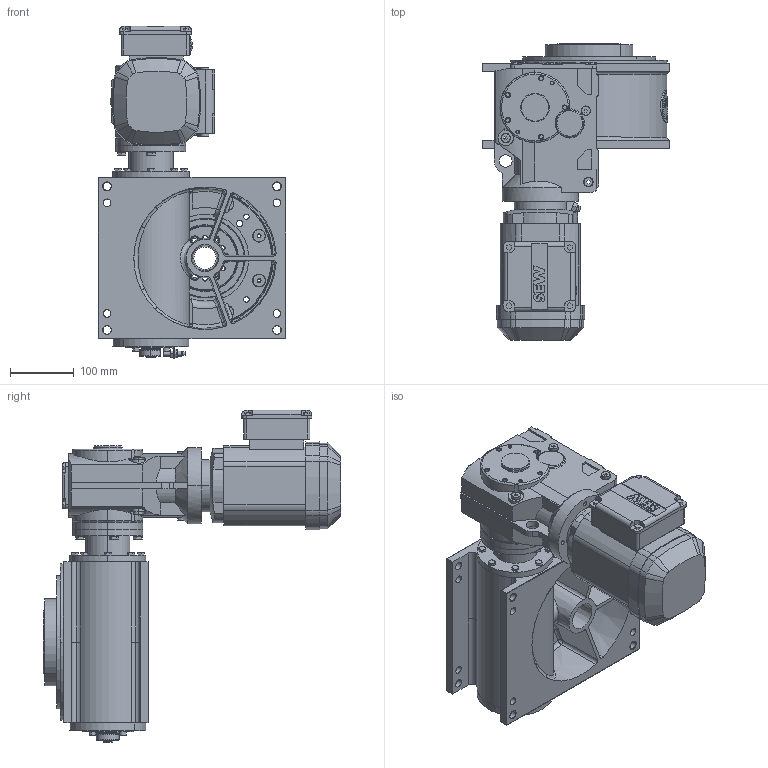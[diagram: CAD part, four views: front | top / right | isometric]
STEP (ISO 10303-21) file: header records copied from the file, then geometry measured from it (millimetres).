
FILE_DESCRIPTION (( 'STEP AP214' ), '1' );
FILE_NAME ('M210_SEW_KA37DRS71S4_D2_08.STEP', '2020-06-17T04:02:48', ( '' ), ( '' ), 'SwSTEP 2.0', 'SolidWorks 2020', '' );
FILE_SCHEMA (( 'AUTOMOTIVE_DESIGN' ));
Length unit declared in the file: millimetre
Products named in the file (1): M210_SEW_KA37DRS71S4_D2_08
Bounding box: 295 x 467 x 522 mm (x, y, z)
Surface area: 848769.4 mm2 (no closed solid volume)
Topology: 0 solids, 74 shells, 1460 faces, 4396 edges, 2942 vertices
Faces by surface type: plane 640, cylinder 460, cone 185, bspline 124, torus 51
Entity records: 74026 total; most frequent: CARTESIAN_POINT 19250, DIRECTION 8050, ORIENTED_EDGE 7489, EDGE_CURVE 4371, VERTEX_POINT 2942, AXIS2_PLACEMENT_3D 2927, LINE 2196, VECTOR 2196
